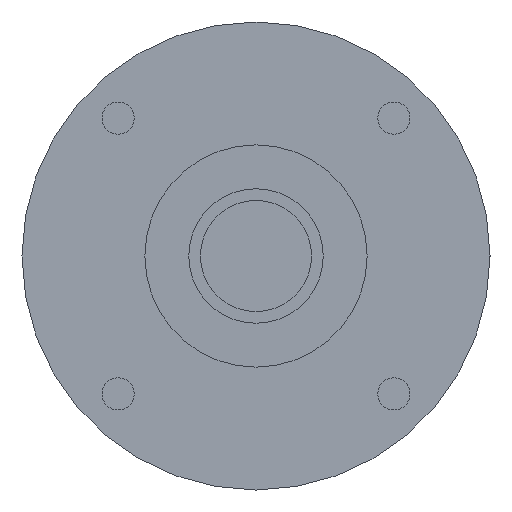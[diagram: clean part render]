
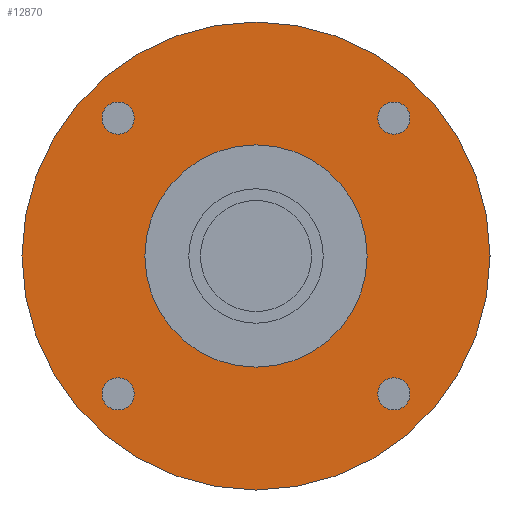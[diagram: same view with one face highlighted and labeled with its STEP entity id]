
A CAD part, left-side view. The second image highlights one B-rep face of the part: STEP entity #12870.
In plain terms, the highlighted planar face has unit normal (-1, 0, 0) as drawn and (0, 0, -1) by its records, which use the part's own axes.
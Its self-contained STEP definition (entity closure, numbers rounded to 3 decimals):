
#11730=CARTESIAN_POINT('',(-40.,0.,-42.2));
#11740=VERTEX_POINT('',#11730);
#11830=CARTESIAN_POINT('',(40.,0.,-42.2));
#11840=VERTEX_POINT('',#11830);
#11870=CARTESIAN_POINT('',(0.,0.,
-42.2));
#11880=DIRECTION('',(0.,0.,1.));
#11890=DIRECTION('',(1.,0.,0.));
#11900=AXIS2_PLACEMENT_3D('',#11870,#11880,#11890);
#11910=CIRCLE('',#11900,40.);
#11920=CARTESIAN_POINT('',(0.,-40.,-42.2));
#11930=VERTEX_POINT('',#11920);
#11940=EDGE_CURVE('',#11930,#11840,#11910,.T.);
#11960=EDGE_CURVE('',#11740,#11930,#11910,.T.);
#12010=CARTESIAN_POINT('',(0.,0.,
-42.2));
#12020=DIRECTION('',(0.,0.,-1.));
#12030=DIRECTION('',(1.,0.,0.));
#12040=AXIS2_PLACEMENT_3D('',#12010,#12020,#12030);
#12050=PLANE('',#12040);
#12060=CARTESIAN_POINT('',(23.571,23.571,-42.2));
#12070=DIRECTION('',(0.,0.,-1.));
#12080=DIRECTION('',(0.,1.,0.));
#12090=AXIS2_PLACEMENT_3D('',#12060,#12070,#12080);
#12100=CIRCLE('',#12090,2.75);
#12110=CARTESIAN_POINT('',(23.571,26.321,-42.2));
#12120=VERTEX_POINT('',#12110);
#12130=CARTESIAN_POINT('',(23.571,20.821,-42.2));
#12140=VERTEX_POINT('',#12130);
#12150=EDGE_CURVE('',#12120,#12140,#12100,.T.);
#12160=ORIENTED_EDGE('',*,*,#12150,.F.);
#12170=EDGE_CURVE('',#12140,#12120,#12100,.T.);
#12180=ORIENTED_EDGE('',*,*,#12170,.F.);
#12190=EDGE_LOOP('',(#12180,#12160));
#12200=FACE_BOUND('',#12190,.T.);
#12210=CARTESIAN_POINT('',(-23.571,23.571,-42.2));
#12220=DIRECTION('',(0.,0.,-1.));
#12230=DIRECTION('',(-1.,0.,0.));
#12240=AXIS2_PLACEMENT_3D('',#12210,#12220,#12230);
#12250=CIRCLE('',#12240,2.75);
#12260=CARTESIAN_POINT('',(-26.321,23.571,-42.2));
#12270=VERTEX_POINT('',#12260);
#12280=CARTESIAN_POINT('',(-20.821,23.571,-42.2));
#12290=VERTEX_POINT('',#12280);
#12300=EDGE_CURVE('',#12270,#12290,#12250,.T.);
#12310=ORIENTED_EDGE('',*,*,#12300,.F.);
#12320=EDGE_CURVE('',#12290,#12270,#12250,.T.);
#12330=ORIENTED_EDGE('',*,*,#12320,.F.);
#12340=EDGE_LOOP('',(#12330,#12310));
#12350=FACE_BOUND('',#12340,.T.);
#12360=CARTESIAN_POINT('',(-23.571,-23.571,-42.2));
#12370=DIRECTION('',(0.,0.,-1.));
#12380=DIRECTION('',(0.,-1.,0.));
#12390=AXIS2_PLACEMENT_3D('',#12360,#12370,#12380);
#12400=CIRCLE('',#12390,2.75);
#12410=CARTESIAN_POINT('',(-23.571,-26.321,-42.2));
#12420=VERTEX_POINT('',#12410);
#12430=CARTESIAN_POINT('',(-23.571,-20.821,-42.2));
#12440=VERTEX_POINT('',#12430);
#12450=EDGE_CURVE('',#12420,#12440,#12400,.T.);
#12460=ORIENTED_EDGE('',*,*,#12450,.F.);
#12470=EDGE_CURVE('',#12440,#12420,#12400,.T.);
#12480=ORIENTED_EDGE('',*,*,#12470,.F.);
#12490=EDGE_LOOP('',(#12480,#12460));
#12500=FACE_BOUND('',#12490,.T.);
#12510=CARTESIAN_POINT('',(0.,0.,
-42.2));
#12520=DIRECTION('',(0.,0.,1.));
#12530=DIRECTION('',(1.,0.,0.));
#12540=AXIS2_PLACEMENT_3D('',#12510,#12520,#12530);
#12550=CIRCLE('',#12540,19.);
#12560=CARTESIAN_POINT('',(19.,0.,-42.2));
#12570=VERTEX_POINT('',#12560);
#12580=CARTESIAN_POINT('',(-19.,0.,-42.2));
#12590=VERTEX_POINT('',#12580);
#12600=EDGE_CURVE('',#12570,#12590,#12550,.T.);
#12610=ORIENTED_EDGE('',*,*,#12600,.T.);
#12620=EDGE_CURVE('',#12590,#12570,#12550,.T.);
#12630=ORIENTED_EDGE('',*,*,#12620,.T.);
#12640=EDGE_LOOP('',(#12630,#12610));
#12650=FACE_BOUND('',#12640,.T.);
#12660=CARTESIAN_POINT('',(23.571,-23.571,-42.2));
#12670=DIRECTION('',(0.,0.,-1.));
#12680=DIRECTION('',(1.,0.,0.));
#12690=AXIS2_PLACEMENT_3D('',#12660,#12670,#12680);
#12700=CIRCLE('',#12690,2.75);
#12710=CARTESIAN_POINT('',(26.321,-23.571,-42.2));
#12720=VERTEX_POINT('',#12710);
#12730=CARTESIAN_POINT('',(20.821,-23.571,-42.2));
#12740=VERTEX_POINT('',#12730);
#12750=EDGE_CURVE('',#12720,#12740,#12700,.T.);
#12760=ORIENTED_EDGE('',*,*,#12750,.F.);
#12770=EDGE_CURVE('',#12740,#12720,#12700,.T.);
#12780=ORIENTED_EDGE('',*,*,#12770,.F.);
#12790=EDGE_LOOP('',(#12780,#12760));
#12800=FACE_BOUND('',#12790,.T.);
#12810=ORIENTED_EDGE('',*,*,#11940,.F.);
#12820=EDGE_CURVE('',#11840,#11740,#11910,.T.);
#12830=ORIENTED_EDGE('',*,*,#12820,.F.);
#12840=ORIENTED_EDGE('',*,*,#11960,.F.);
#12850=EDGE_LOOP('',(#12840,#12830,#12810));
#12860=FACE_OUTER_BOUND('',#12850,.T.);
#12870=ADVANCED_FACE('',(#12200,#12350,#12500,#12650,#12800,#12860),
#12050,.T.);
